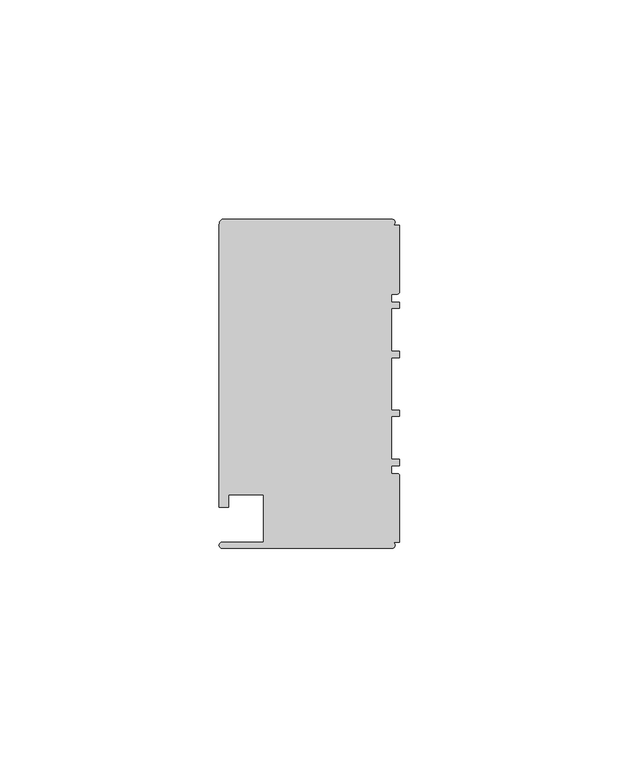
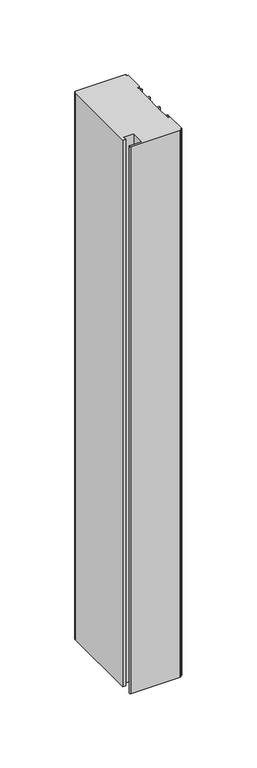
"""IFC4 building model written with IfcOpenShell, lengths in millimetres: member geometry, Прямоугольный импост : 1-AMG-1-Профиль 40Х75 Верх П."""

from ifc_helpers import new_model, si_unit, point, frame, frame_2d, origin, place, context, project, spatial, polyline, circle_curve, trimmed, segment, composite_curve, outline, extrude, source, transform, mapped, element, save


def member_0a683327(model_context):
    return source(origin(), model_context, "Body", "SweptSolid", [
        extrude(outline(composite_curve([segment(polyline([(-1.7, -37.5), (-40.4, -37.5)]), True, "CONTINUOUS"), segment(trimmed(circle_curve(frame_2d((-40.4, -36.8)), 0.7), [point((-40.4, -37.5))], [point((-40.4, -36.1))], False, "CARTESIAN"), True, "CONTINUOUS"), segment(polyline([(-40.4, -36.1), (-31.0, -36.1), (-31.0, -25.25), (-39.0, -25.25), (-39.0, -28.1), (-41.1, -28.1), (-41.1, 36.1)]), True, "CONTINUOUS"), segment(trimmed(circle_curve(frame_2d((-39.7541527, 36.3020763)), 1.3609334), [point((-41.1, 36.1))], [point((-40.4, 37.5))], False, "CARTESIAN"), True, "CONTINUOUS"), segment(polyline([(-40.4, 37.5), (-1.7, 37.5)]), True, "CONTINUOUS"), segment(trimmed(circle_curve(frame_2d((-1.7, 36.8)), 0.7), [point((-1.7, 37.5))], [point((-1.7, 36.1))], False, "CARTESIAN"), True, "CONTINUOUS"), segment(polyline([(-1.7, 36.1), (0.0, 36.1), (0.0, 20.95)]), True, "CONTINUOUS"), segment(trimmed(circle_curve(frame_2d((-0.5, 20.95)), 0.5), [point((0.0, 20.95))], [point((-0.5, 20.45))], False, "CARTESIAN"), True, "CONTINUOUS"), segment(polyline([(-0.5, 20.45), (-1.8, 20.45), (-1.8, 18.65), (0.0, 18.65), (0.0, 17.25), (-1.8, 17.25), (-1.8, 7.4), (0.0, 7.4), (0.0, 6.0), (-1.8, 6.0), (-1.8, -6.0), (0.0, -6.0), (0.0, -7.4), (-1.8, -7.4), (-1.8, -17.25), (0.0, -17.25), (0.0, -18.65), (-1.8, -18.65), (-1.8, -20.45), (-0.5, -20.45)]), True, "CONTINUOUS"), segment(trimmed(circle_curve(frame_2d((-0.5, -20.95)), 0.5), [point((-0.5, -20.45))], [point((0.0, -20.95))], False, "CARTESIAN"), True, "CONTINUOUS"), segment(polyline([(0.0, -20.95), (0.0, -36.1), (-1.7, -36.1)]), True, "CONTINUOUS"), segment(trimmed(circle_curve(frame_2d((-1.7, -36.8)), 0.7), [point((-1.7, -36.1))], [point((-1.7, -37.5))], False, "CARTESIAN"), True, "CONTINUOUS")], self_intersect=False)), frame((0.0, 0.0, -450.0), z_axis=(0.0, 0.0, 1.0), x_axis=(1.0, 0.0, 0.0)), (0.0, 0.0, 1.0), 450.0),
    ])


if __name__ == "__main__":
    model = new_model("IFC4")
    model_context = context("Model", 3, world=origin())
    ifc_project = project(units=[si_unit("LENGTHUNIT", "METRE", prefix="MILLI")], contexts=[model_context])
    site = spatial("IfcSite", under=ifc_project)
    building = spatial("IfcBuilding", under=site)
    placement = place(None, origin())
    member_shape = member_0a683327(model_context)
    element("IfcMember", 1, ObjectType="Прямоугольный импост : 1-AMG-1-Профиль 40Х75 Верх П", at=placement, inside=building, context=model_context, shape_type="MappedRepresentation", body=[
        mapped(member_shape, transform((0.0, 0.0, 0.0), x_axis=(1.0, 0.0, 0.0), y_axis=(0.0, 1.0, 0.0), z_axis=(0.0, 0.0, 1.0))),
    ])
    save(model, "model.ifc")
